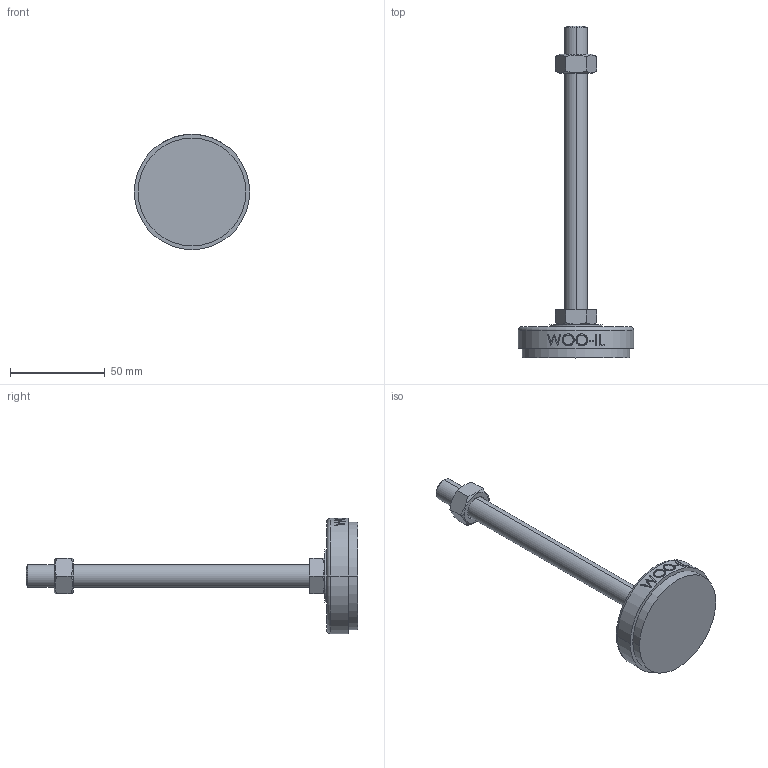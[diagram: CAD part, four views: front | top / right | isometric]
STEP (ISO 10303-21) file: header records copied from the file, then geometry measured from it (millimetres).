
FILE_DESCRIPTION (( 'STEP AP214' ), '1' );
FILE_NAME ('NS61-M12-150.step', '2021-01-11T05:44:55', ( '' ), ( '' ), 'SwSTEP 2.0', 'SolidWorks 2019', '' );
FILE_SCHEMA (( 'AUTOMOTIVE_DESIGN' ));
Length unit declared in the file: millimetre
Products named in the file (2): NS61-M12-150
Bounding box: 61 x 175.5 x 61 mm (x, y, z)
Volume: 68182.7 mm3; surface area: 17002 mm2
Topology: 3 solids, 3 shells, 96 faces, 223 edges, 144 vertices
Faces by surface type: plane 48, cylinder 18, bspline 16, cone 12, torus 2
Entity records: 4252 total; most frequent: CARTESIAN_POINT 2127, ORIENTED_EDGE 446, DIRECTION 381, EDGE_CURVE 223, VERTEX_POINT 144, AXIS2_PLACEMENT_3D 142, EDGE_LOOP 109, LINE 97
